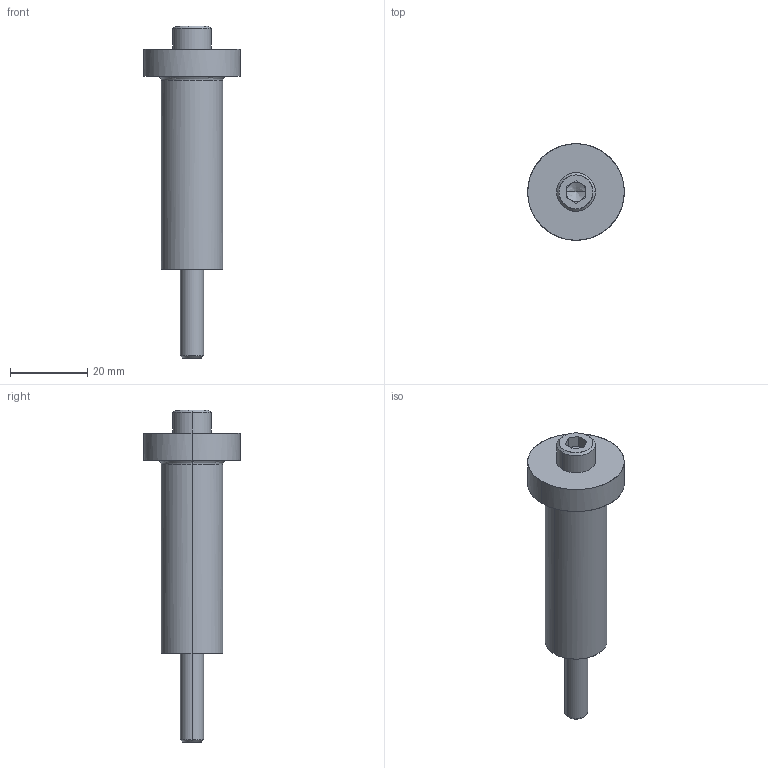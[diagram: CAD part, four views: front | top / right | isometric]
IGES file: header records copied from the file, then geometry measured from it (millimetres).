
Global section: file name: E:\UnigraphicsGraphicData\MISUMI_PRESS-PARTS\IGES\3d_sbwh16-50-80_05180_r00.igs; native system: NX V5.0; preprocessor: UGS NX IGES V5.0; author: MISUMI; date: 20110105.162514; units: millimetre
Bounding box: 25 x 25 x 86 mm (x, y, z)
Surface area: 7014.2 mm2 (no closed solid volume)
Topology: 0 solids, 0 shells, 36 faces, 204 edges, 202 vertices
Faces by surface type: bspline 36
